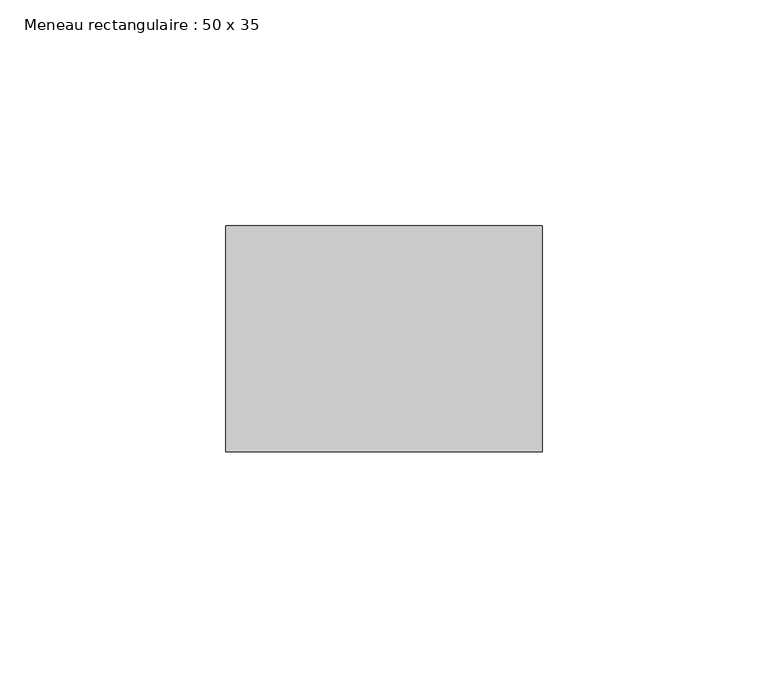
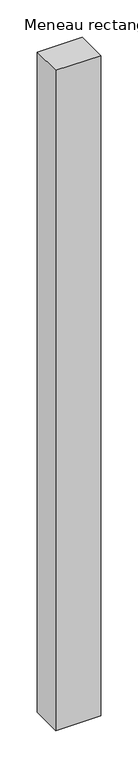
"""IFC4 building model written with IfcOpenShell, lengths in millimetres: member geometry, Meneau rectangulaire : 50 x 35."""

from ifc_helpers import new_model, si_unit, frame, origin, place, context, project, spatial, polyline, outline, extrude, source, transform, mapped, element, save


def meneau_rectangulaire_50_x_35_7207fb2d(model_context):
    return source(origin(), model_context, "Body", "SweptSolid", [
        extrude(outline(polyline([(35.0, 0.0), (35.0, -50.0), (-35.0, -50.0), (-35.0, 0.0), (35.0, 0.0)])), frame((0.0, 0.0, -1085.8847057), z_axis=(0.0, 0.0, 1.0), x_axis=(1.0, 0.0, 0.0)), (0.0, 0.0, 1.0), 1085.8847057),
    ])


if __name__ == "__main__":
    model = new_model("IFC4")
    model_context = context("Model", 3, world=origin())
    ifc_project = project(units=[si_unit("LENGTHUNIT", "METRE", prefix="MILLI")], contexts=[model_context])
    site = spatial("IfcSite", under=ifc_project)
    building = spatial("IfcBuilding", under=site)
    placement = place(None, origin())
    meneau_rectangulaire_50_x_35_shape = meneau_rectangulaire_50_x_35_7207fb2d(model_context)
    element("IfcMember", 1, ObjectType="Meneau rectangulaire : 50 x 35", at=placement, inside=building, context=model_context, shape_type="MappedRepresentation", body=[
        mapped(meneau_rectangulaire_50_x_35_shape, transform((0.0, 0.0, 0.0), x_axis=(1.0, 0.0, 0.0), y_axis=(0.0, 1.0, 0.0), z_axis=(0.0, 0.0, 1.0))),
    ])
    save(model, "model.ifc")
